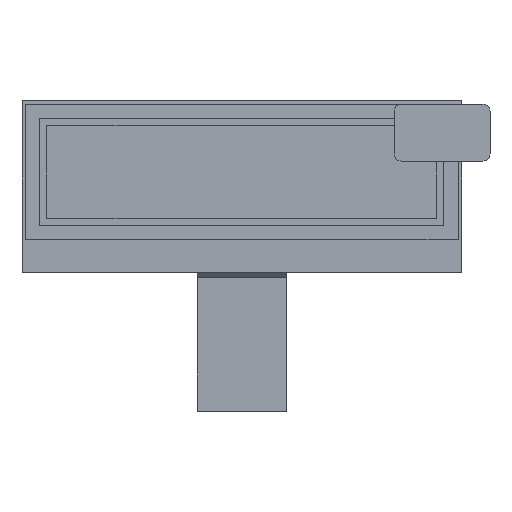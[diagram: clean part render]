
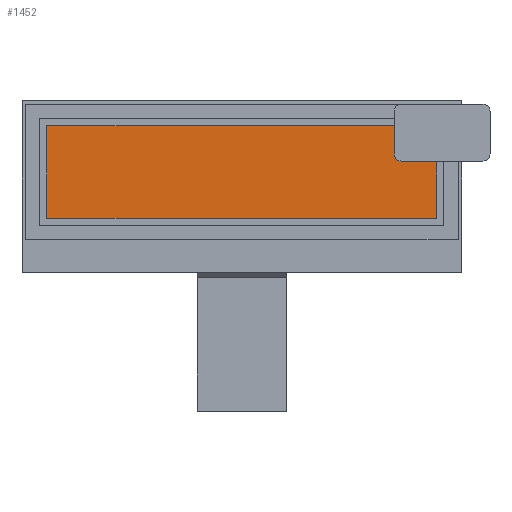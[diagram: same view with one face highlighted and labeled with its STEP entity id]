
A CAD part, top view. The second image highlights one B-rep face of the part: STEP entity #1452.
In plain terms, the highlighted planar face has unit normal (0, 0, 1).
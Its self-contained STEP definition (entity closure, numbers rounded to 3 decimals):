
#50 = VECTOR ( 'NONE', #240, 1000. ) ;
#59 = CARTESIAN_POINT ( 'NONE',  ( 27.508, -6.548, 1. ) ) ;
#94 = CARTESIAN_POINT ( 'NONE',  ( 0., -6.548, 1. ) ) ;
#160 = LINE ( 'NONE', #472, #713 ) ;
#176 = DIRECTION ( 'NONE',  ( 1., 0., 0. ) ) ;
#215 = EDGE_CURVE ( 'NONE', #848, #494, #1409, .T. ) ;
#225 = DIRECTION ( 'NONE',  ( 0., 1., 0. ) ) ;
#240 = DIRECTION ( 'NONE',  ( -1., 0., 0. ) ) ;
#277 = ORIENTED_EDGE ( 'NONE', *, *, #281, .F. ) ;
#281 = EDGE_CURVE ( 'NONE', #987, #848, #1576, .T. ) ;
#409 = ORIENTED_EDGE ( 'NONE', *, *, #1646, .F. ) ;
#472 = CARTESIAN_POINT ( 'NONE',  ( 27.508, 0., 1. ) ) ;
#492 = PLANE ( 'NONE',  #1008 ) ;
#494 = VERTEX_POINT ( 'NONE', #1019 ) ;
#498 = EDGE_CURVE ( 'NONE', #1711, #987, #1437, .T. ) ;
#517 = CARTESIAN_POINT ( 'NONE',  ( -27.508, -6.548, 1. ) ) ;
#713 = VECTOR ( 'NONE', #1658, 1000. ) ;
#796 = ORIENTED_EDGE ( 'NONE', *, *, #498, .F. ) ;
#815 = EDGE_LOOP ( 'NONE', ( #277, #796, #409, #1823 ) ) ;
#848 = VERTEX_POINT ( 'NONE', #1853 ) ;
#862 = CARTESIAN_POINT ( 'NONE',  ( -27.508, 0., 1. ) ) ;
#987 = VERTEX_POINT ( 'NONE', #517 ) ;
#1008 = AXIS2_PLACEMENT_3D ( 'NONE', #1797, #1495, #1661 ) ;
#1019 = CARTESIAN_POINT ( 'NONE',  ( 27.508, 6.548, 1. ) ) ;
#1027 = VECTOR ( 'NONE', #225, 1000. ) ;
#1409 = LINE ( 'NONE', #1666, #1641 ) ;
#1437 = LINE ( 'NONE', #94, #50 ) ;
#1452 = ADVANCED_FACE ( 'NONE', ( #1485 ), #492, .T. ) ;
#1485 = FACE_OUTER_BOUND ( 'NONE', #815, .T. ) ;
#1495 = DIRECTION ( 'NONE',  ( 0., 0., 1. ) ) ;
#1576 = LINE ( 'NONE', #862, #1027 ) ;
#1641 = VECTOR ( 'NONE', #176, 1000. ) ;
#1646 = EDGE_CURVE ( 'NONE', #494, #1711, #160, .T. ) ;
#1658 = DIRECTION ( 'NONE',  ( 0., -1., 0. ) ) ;
#1661 = DIRECTION ( 'NONE',  ( 1., 0., 0. ) ) ;
#1666 = CARTESIAN_POINT ( 'NONE',  ( 0., 6.548, 1. ) ) ;
#1711 = VERTEX_POINT ( 'NONE', #59 ) ;
#1797 = CARTESIAN_POINT ( 'NONE',  ( 0., 0., 1. ) ) ;
#1823 = ORIENTED_EDGE ( 'NONE', *, *, #215, .F. ) ;
#1853 = CARTESIAN_POINT ( 'NONE',  ( -27.508, 6.548, 1. ) ) ;
